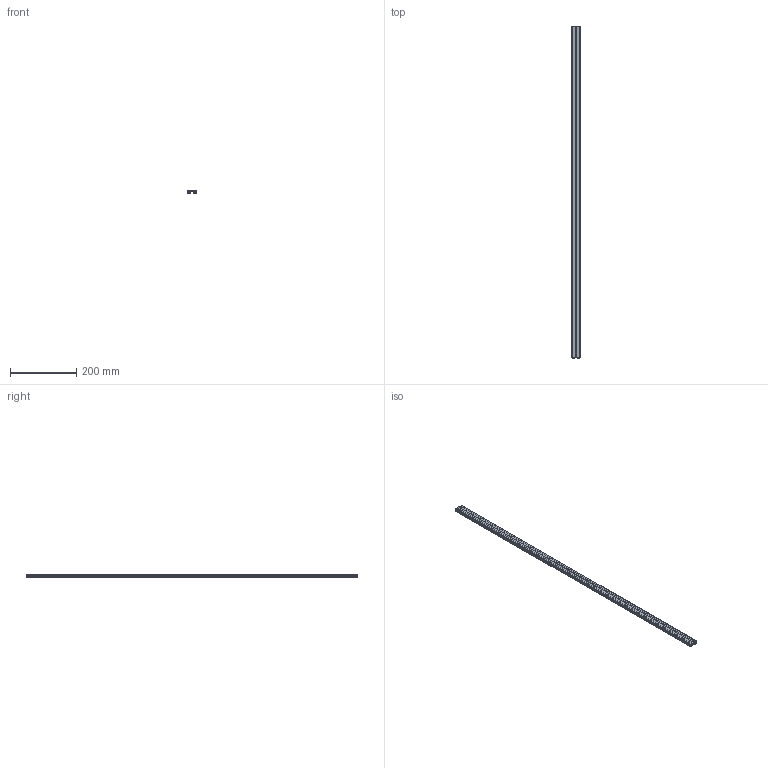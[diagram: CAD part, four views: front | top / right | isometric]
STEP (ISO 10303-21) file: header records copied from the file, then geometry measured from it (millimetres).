
FILE_DESCRIPTION (( 'STEP AP214' ), '1' );
FILE_NAME ('PEP2510-1000.STEP', '2019-10-29T09:40:44', ( '微软用户' ), ( '微软中国' ), 'SwSTEP 2.0', 'SolidWorks 2016', '' );
FILE_SCHEMA (( 'AUTOMOTIVE_DESIGN' ));
Length unit declared in the file: millimetre
Products named in the file (1): PEP2510-1000
Bounding box: 25 x 1000 x 10 mm (x, y, z)
Volume: 111634.9 mm3; surface area: 150510 mm2
Topology: 1 solids, 1 shells, 70 faces, 204 edges, 136 vertices
Faces by surface type: plane 36, cylinder 34
Entity records: 3148 total; most frequent: DIRECTION 414, CARTESIAN_POINT 411, ORIENTED_EDGE 408, EDGE_CURVE 204, AXIS2_PLACEMENT_3D 139, VECTOR 136, VERTEX_POINT 136, LINE 136
